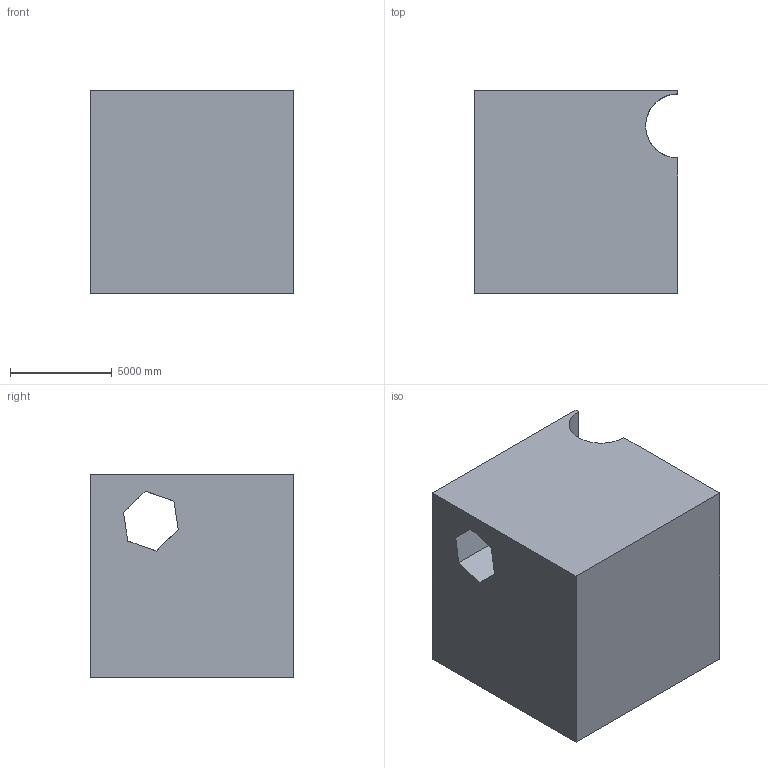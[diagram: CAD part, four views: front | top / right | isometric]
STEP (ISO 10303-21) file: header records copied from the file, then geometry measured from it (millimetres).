
FILE_DESCRIPTION (( 'STEP AP203' ), '1' );
FILE_NAME ('112.STEP', '2022-09-05T15:34:17', ( 'user' ), ( '' ), 'SwSTEP 2.0', 'SolidWorks 2021', '' );
FILE_SCHEMA (( 'CONFIG_CONTROL_DESIGN' ));
Length unit declared in the file: centimetre
Products named in the file (1): 112
Bounding box: 10000 x 10000 x 10000 mm (x, y, z)
Volume: 909318701200.4 mm3; surface area: 677883759.7 mm2
Topology: 1 solids, 1 shells, 14 faces, 39 edges, 26 vertices
Faces by surface type: plane 13, cylinder 1
Entity records: 526 total; most frequent: CARTESIAN_POINT 95, ORIENTED_EDGE 78, DIRECTION 66, EDGE_CURVE 39, LINE 32, VECTOR 32, VERTEX_POINT 26, AXIS2_PLACEMENT_3D 17
